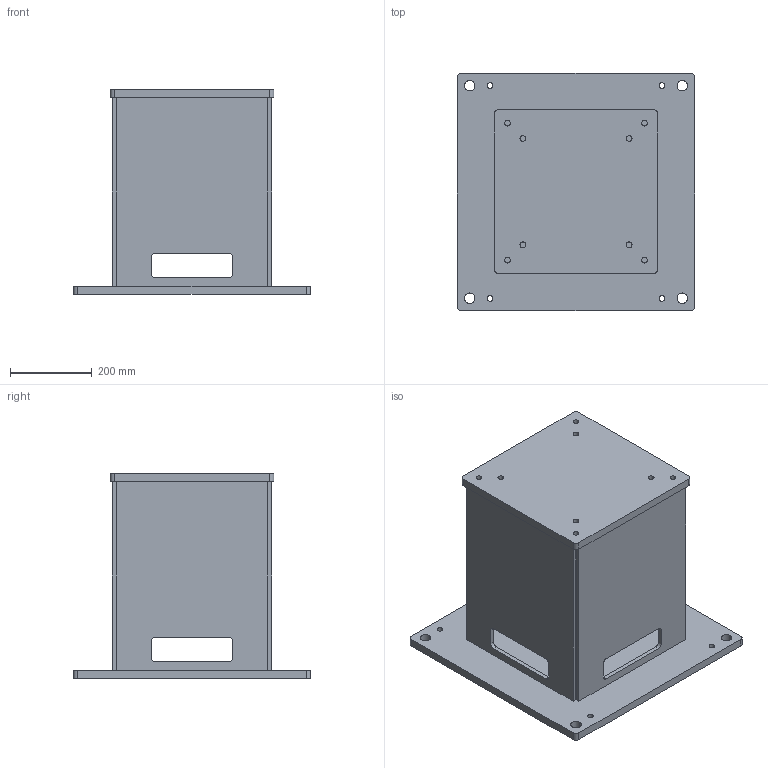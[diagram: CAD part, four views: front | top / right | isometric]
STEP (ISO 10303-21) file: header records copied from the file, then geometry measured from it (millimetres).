
FILE_DESCRIPTION (( 'STEP AP214' ), '1' );
FILE_NAME ('Robotersockel_500mm_133438~a.STEP', '2016-07-14T06:39:58', ( '-' ), ( 'Yaskawa Europe GmbH' ), 'SwSTEP 2.0', 'SolidWorks 2016', '' );
FILE_SCHEMA (( 'AUTOMOTIVE_DESIGN' ));
Length unit declared in the file: millimetre
Products named in the file (1): Robotersockel_500mm_133438~a
Bounding box: 580 x 580 x 500 mm (x, y, z)
Volume: 15429120.4 mm3; surface area: 2363052.7 mm2
Topology: 6 solids, 6 shells, 118 faces, 318 edges, 212 vertices
Faces by surface type: cylinder 62, plane 56
Entity records: 3957 total; most frequent: DIRECTION 680, CARTESIAN_POINT 649, ORIENTED_EDGE 636, EDGE_CURVE 318, AXIS2_PLACEMENT_3D 243, VERTEX_POINT 212, LINE 194, VECTOR 194
